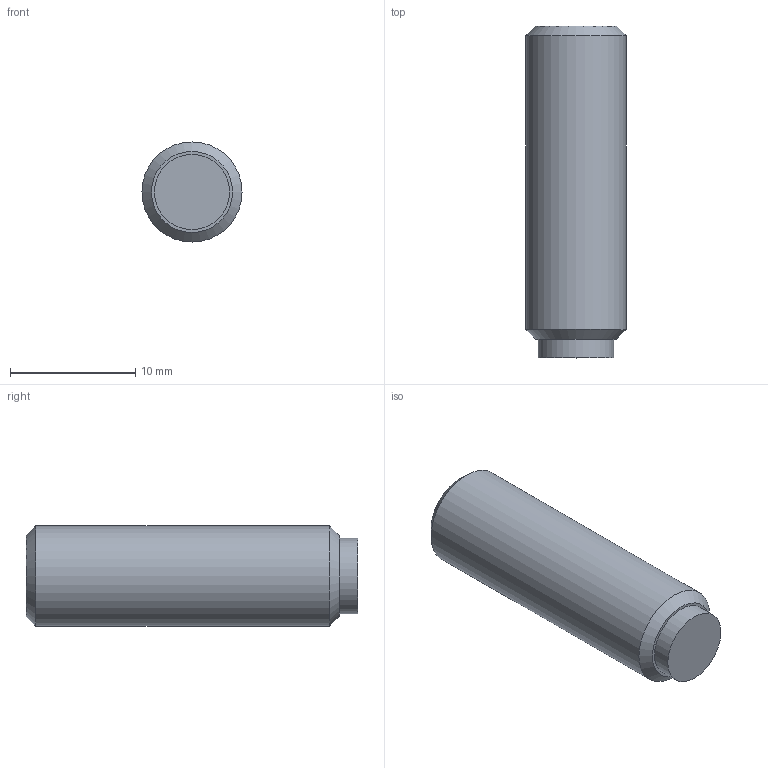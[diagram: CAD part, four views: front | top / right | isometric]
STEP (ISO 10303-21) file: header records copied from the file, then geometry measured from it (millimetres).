
FILE_DESCRIPTION( ( 'STEP AP203' ), '1' );
FILE_NAME( 'C:/Temp/Ganter_Step_05_03_2020/data/3_2/gn913_3/Grub screw GN 913.3-M8-25-MS.stp', '2020-03-13T05:35:50', ( 'License CC BY-ND 4.0' ), ( 'CADENAS' ), ' ', 'PARTsolutions', ' ' );
FILE_SCHEMA( ( 'CONFIG_CONTROL_DESIGN' ) );
Length unit declared in the file: millimetre
Products named in the file (1): _Grub screw GN 913.3-M8-25-MS
Bounding box: 8 x 26.5 x 8 mm (x, y, z)
Volume: 1215.9 mm3; surface area: 802.3 mm2
Topology: 1 solids, 1 shells, 14 faces, 28 edges, 18 vertices
Faces by surface type: plane 10, cylinder 2, cone 2
Full cylindrical faces by diameter (mm): 6 x1, 8 x1
Entity records: 386 total; most frequent: DIRECTION 60, CARTESIAN_POINT 57, ORIENTED_EDGE 48, EDGE_CURVE 24, AXIS2_PLACEMENT_3D 21, EDGE_LOOP 20, VERTEX_POINT 18, LINE 18
